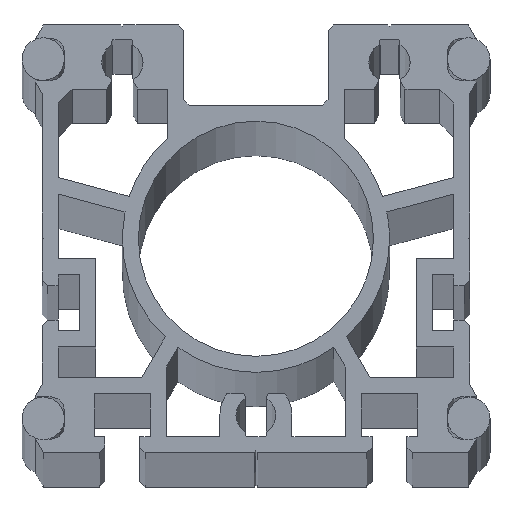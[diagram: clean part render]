
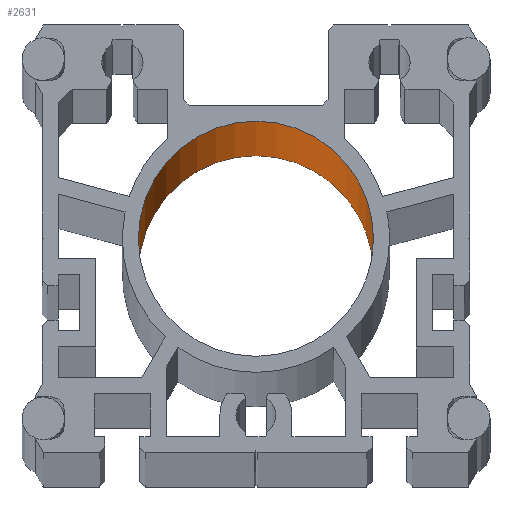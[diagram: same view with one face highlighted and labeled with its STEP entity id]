
A CAD part, top view. The second image highlights one B-rep face of the part: STEP entity #2631.
In plain terms, the highlighted cylindrical face has radius 22 mm (diameter 44 mm), a partial arc.
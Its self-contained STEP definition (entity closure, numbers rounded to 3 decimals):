
#684 = VERTEX_POINT ( 'NONE', #4365 ) ;
#685 = VERTEX_POINT ( 'NONE', #4364 ) ;
#687 = EDGE_CURVE ( 'NONE', #684, #688, #4237, .T. ) ;
#688 = VERTEX_POINT ( 'NONE', #4233 ) ;
#689 = VERTEX_POINT ( 'NONE', #4232 ) ;
#696 = EDGE_CURVE ( 'NONE', #685, #689, #4221, .T. ) ;
#1909 = EDGE_CURVE ( 'NONE', #685, #684, #5834, .T. ) ;
#2629 = EDGE_CURVE ( 'NONE', #689, #688, #7174, .T. ) ;
#2631 = ADVANCED_FACE ( 'NONE', ( #7136 ), #7135, .F. ) ;
#2632 = EDGE_LOOP ( 'NONE', ( #2634, #2635, #2636, #2637 ) ) ;
#2634 = ORIENTED_EDGE ( 'NONE', *, *, #687, .F. ) ;
#2635 = ORIENTED_EDGE ( 'NONE', *, *, #1909, .F. ) ;
#2636 = ORIENTED_EDGE ( 'NONE', *, *, #696, .T. ) ;
#2637 = ORIENTED_EDGE ( 'NONE', *, *, #2629, .T. ) ;
#4218 = DIRECTION ( 'NONE',  ( 0., 0., 1. ) ) ;
#4219 = VECTOR ( 'NONE', #4218, 1000. ) ;
#4220 = CARTESIAN_POINT ( 'NONE',  ( 22., 40., -1849. ) ) ;
#4221 = LINE ( 'NONE', #4220, #4219 ) ;
#4232 = CARTESIAN_POINT ( 'NONE',  ( 22., 40., 1849. ) ) ;
#4233 = CARTESIAN_POINT ( 'NONE',  ( -22., 40., 1849. ) ) ;
#4234 = DIRECTION ( 'NONE',  ( 0., 0., 1. ) ) ;
#4235 = VECTOR ( 'NONE', #4234, 1000. ) ;
#4236 = CARTESIAN_POINT ( 'NONE',  ( -22., 40., -1849. ) ) ;
#4237 = LINE ( 'NONE', #4236, #4235 ) ;
#4364 = CARTESIAN_POINT ( 'NONE',  ( 22., 40., -1849. ) ) ;
#4365 = CARTESIAN_POINT ( 'NONE',  ( -22., 40., -1849. ) ) ;
#5830 = DIRECTION ( 'NONE',  ( 1., 0., 0. ) ) ;
#5831 = DIRECTION ( 'NONE',  ( 0., 0., 1. ) ) ;
#5832 = CARTESIAN_POINT ( 'NONE',  ( 0., 40., -1849. ) ) ;
#5833 = AXIS2_PLACEMENT_3D ( 'NONE', #5832, #5831, #5830 ) ;
#5834 = CIRCLE ( 'NONE', #5833, 22. ) ;
#7130 = DIRECTION ( 'NONE',  ( 1., 0., 0. ) ) ;
#7131 = DIRECTION ( 'NONE',  ( 0., 0., 1. ) ) ;
#7132 = CARTESIAN_POINT ( 'NONE',  ( 0., 40., -1849. ) ) ;
#7133 = AXIS2_PLACEMENT_3D ( 'NONE', #7132, #7131, #7130 ) ;
#7135 = CYLINDRICAL_SURFACE ( 'NONE', #7133, 22. ) ;
#7136 = FACE_OUTER_BOUND ( 'NONE', #2632, .T. ) ;
#7170 = DIRECTION ( 'NONE',  ( 1., 0., 0. ) ) ;
#7171 = DIRECTION ( 'NONE',  ( 0., 0., 1. ) ) ;
#7172 = CARTESIAN_POINT ( 'NONE',  ( 0., 40., 1849. ) ) ;
#7173 = AXIS2_PLACEMENT_3D ( 'NONE', #7172, #7171, #7170 ) ;
#7174 = CIRCLE ( 'NONE', #7173, 22. ) ;
